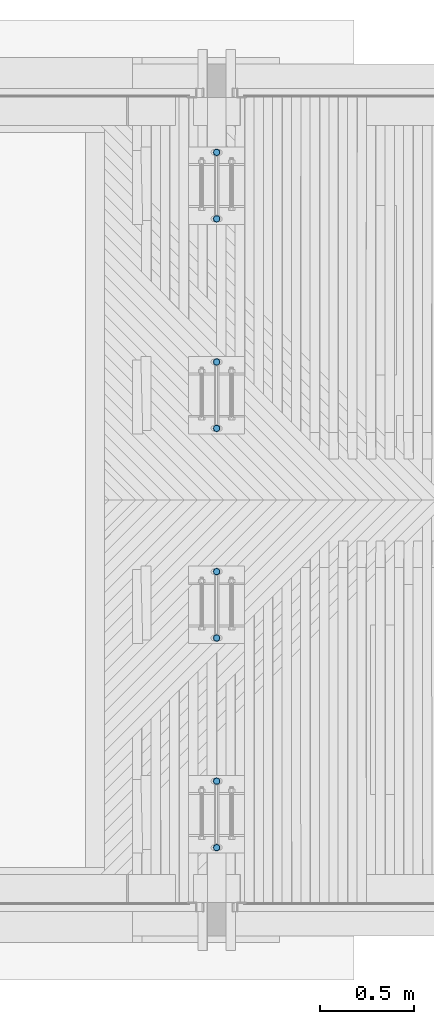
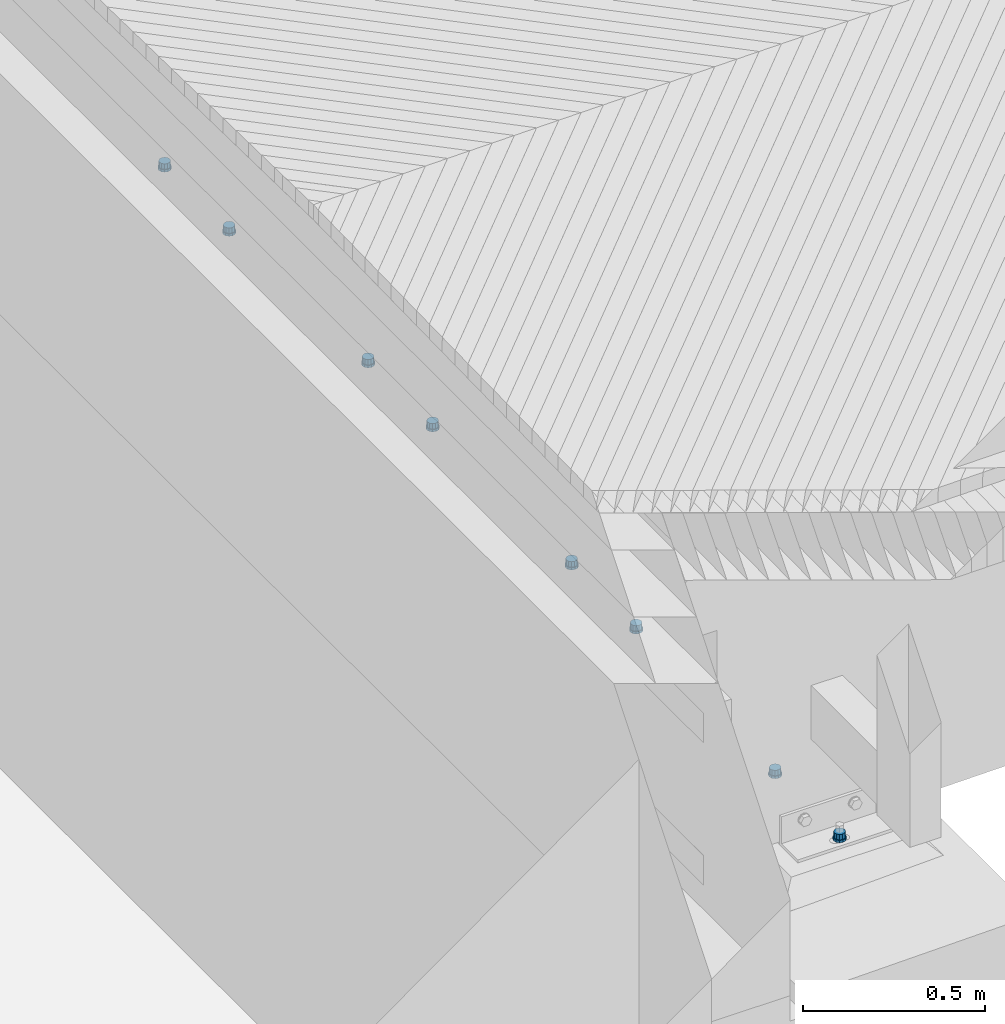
# One storey, part 14 of 65: 16 columns.
"""IFC2X3 building model written with IfcOpenShell, lengths in millimetres."""

from ifc_helpers import new_model, si_unit, frame, origin_with_axes, place, context, subcontext, project, spatial, faceted_brep, material, type_object, element, save


model = new_model("IFC2X3")

# Units and contexts
model_context = context("Model", 3, precision=1e-05, world=origin_with_axes())
body_context = subcontext(model_context, "Body", "Model", "MODEL_VIEW")
ifc_project = project(units=[si_unit("LENGTHUNIT", "METRE", prefix="MILLI"), si_unit("AREAUNIT", "SQUARE_METRE"), si_unit("VOLUMEUNIT", "CUBIC_METRE"), si_unit("MASSUNIT", "GRAM", prefix="KILO"), si_unit("TIMEUNIT", "SECOND"), si_unit("PLANEANGLEUNIT", "RADIAN"), si_unit("SOLIDANGLEUNIT", "STERADIAN"), si_unit("THERMODYNAMICTEMPERATUREUNIT", "DEGREE_CELSIUS"), si_unit("LUMINOUSINTENSITYUNIT", "LUMEN")], contexts=[model_context])

# Site, building, storey
site_placement = place(None, origin_with_axes())
site = spatial("IfcSite", under=ifc_project, at=site_placement, Name="Undefined", CompositionType="ELEMENT")
building_placement = place(site_placement, origin_with_axes())
building = spatial("IfcBuilding", under=site, at=building_placement, Name="Undefined", CompositionType="ELEMENT")
storey_placement = place(building_placement, origin_with_axes())
storey = spatial("IfcBuildingStorey", under=building, at=storey_placement, Name="Undefined", CompositionType="ELEMENT", Elevation=0.0)

# Columns
ifc_material = material(Name="STEEL/Steel_Undefined")
column_type_1 = type_object("IfcColumnType", Name="D38", PredefinedType="NOTDEFINED")
for number, where, z_axis, x_axis, name in (
    (1, (0.0, 22747.5000000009, 2007.32999999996), (0.0, 1.0, 0.0), (0.0, 0.0, 1.0), "BEAM"),
    (2, (0.0, 23102.5000000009, 2007.32999999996), (0.0, 1.0, 0.0), (0.0, 0.0, 1.0), "BEAM"),
    (3, (0.0, 23867.5000000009, 1985.32999999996), (0.0, 1.0, 0.0), (0.0, 0.0, 1.0), "BEAM"),
    (4, (0.0, 24222.5000000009, 1985.32999999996), (0.0, 1.0, 0.0), (0.0, 0.0, 1.0), "BEAM"),
    (5, (0.0, 21982.5, 2007.32999999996), (0.0, -1.0, 0.0), (0.0, 0.0, 1.0), "BEAM"),
    (6, (0.0, 21627.5, 2007.32999999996), (0.0, -1.0, 0.0), (0.0, 0.0, 1.0), "BEAM"),
    (7, (0.0, 20862.5, 1985.32999999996), (0.0, -1.0, 0.0), (0.0, 0.0, 1.0), "BEAM"),
    (8, (0.0, 20507.5, 1985.32999999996), (0.0, -1.0, 0.0), (0.0, 0.0, 1.0), "BEAM"),
):
    element("IfcColumn", number, at=place(storey_placement, frame(where, z_axis=z_axis, x_axis=x_axis)), inside=storey, type_object=column_type_1, material=ifc_material, Name=name, ObjectType="D38", context=body_context, shape_type="Brep", body=[
        faceted_brep([(0.0, -19.0, 0.0), (0.0, -16.4544826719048, -9.5), (8.0, -16.4544826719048, -9.5), (8.0, -19.0, 0.0), (0.0, -9.5, -16.454482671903), (8.0, -9.5, -16.454482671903), (0.0, 0.0, -19.0), (8.0, 0.0, -19.0), (0.0, 9.5, -16.454482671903), (8.0, 9.5, -16.454482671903), (0.0, 16.4544826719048, -9.5), (8.0, 16.4544826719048, -9.5), (0.0, 19.0, 0.0), (8.0, 19.0, 0.0), (0.0, 16.4544826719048, 9.5), (8.0, 16.4544826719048, 9.5), (0.0, 9.5, 16.454482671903), (8.0, 9.5, 16.454482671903), (0.0, 0.0, 19.0), (8.0, 0.0, 19.0), (0.0, -9.5, 16.454482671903), (8.0, -9.5, 16.454482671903), (0.0, -16.4544826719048, 9.5), (8.0, -16.4544826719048, 9.5)], [[[0, 1, 2, 3]], [[1, 4, 5, 2]], [[4, 6, 7, 5]], [[6, 8, 9, 7]], [[8, 10, 11, 9]], [[10, 12, 13, 11]], [[12, 14, 15, 13]], [[14, 16, 17, 15]], [[16, 18, 19, 17]], [[18, 20, 21, 19]], [[20, 22, 23, 21]], [[22, 0, 3, 23]], [[5, 7, 9, 11, 13, 15, 17, 19, 21, 23, 3, 2]], [[22, 20, 18, 16, 14, 12, 10, 8, 6, 4, 1, 0]]]),
    ])
column_type_2 = type_object("IfcColumnType", Name="D33", PredefinedType="NOTDEFINED")
for number, where, z_axis, x_axis, name in (
    (9, (0.0, 22747.5000000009, 2015.32999999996), (0.0, 1.0, 0.0), (0.0, 0.0, 1.0), "BEAM"),
    (10, (0.0, 23102.5000000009, 2015.32999999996), (0.0, 1.0, 0.0), (0.0, 0.0, 1.0), "BEAM"),
    (11, (0.0, 23867.5000000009, 1993.32999999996), (0.0, 1.0, 0.0), (0.0, 0.0, 1.0), "BEAM"),
    (12, (0.0, 24222.5000000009, 1993.32999999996), (0.0, 1.0, 0.0), (0.0, 0.0, 1.0), "BEAM"),
    (13, (0.0, 21982.5, 2015.32999999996), (0.0, -1.0, 0.0), (0.0, 0.0, 1.0), "BEAM"),
    (14, (0.0, 21627.5, 2015.32999999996), (0.0, -1.0, 0.0), (0.0, 0.0, 1.0), "BEAM"),
    (15, (0.0, 20862.5, 1993.32999999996), (0.0, -1.0, 0.0), (0.0, 0.0, 1.0), "BEAM"),
    (16, (0.0, 20507.5, 1993.32999999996), (0.0, -1.0, 0.0), (0.0, 0.0, 1.0), "BEAM"),
):
    element("IfcColumn", number, at=place(storey_placement, frame(where, z_axis=z_axis, x_axis=x_axis)), inside=storey, type_object=column_type_2, material=ifc_material, Name=name, ObjectType="D33", context=body_context, shape_type="Brep", body=[
        faceted_brep([(0.0, -16.5, 0.0), (0.0, -14.2894191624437, -8.25), (18.0, -14.2894191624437, -8.25), (18.0, -16.5, 0.0), (0.0, -8.25, -14.2894191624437), (18.0, -8.25, -14.2894191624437), (0.0, 0.0, -16.5), (18.0, 0.0, -16.5), (0.0, 8.25, -14.2894191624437), (18.0, 8.25, -14.2894191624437), (0.0, 14.2894191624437, -8.25), (18.0, 14.2894191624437, -8.25), (0.0, 16.5, 0.0), (18.0, 16.5, 0.0), (0.0, 14.2894191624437, 8.25), (18.0, 14.2894191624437, 8.25), (0.0, 8.25, 14.2894191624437), (18.0, 8.25, 14.2894191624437), (0.0, 0.0, 16.5), (18.0, 0.0, 16.5), (0.0, -8.25, 14.2894191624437), (18.0, -8.25, 14.2894191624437), (0.0, -14.2894191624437, 8.25), (18.0, -14.2894191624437, 8.25)], [[[0, 1, 2, 3]], [[1, 4, 5, 2]], [[4, 6, 7, 5]], [[6, 8, 9, 7]], [[8, 10, 11, 9]], [[10, 12, 13, 11]], [[12, 14, 15, 13]], [[14, 16, 17, 15]], [[16, 18, 19, 17]], [[18, 20, 21, 19]], [[20, 22, 23, 21]], [[22, 0, 3, 23]], [[5, 7, 9, 11, 13, 15, 17, 19, 21, 23, 3, 2]], [[22, 20, 18, 16, 14, 12, 10, 8, 6, 4, 1, 0]]]),
    ])

save(model, "model.ifc")
